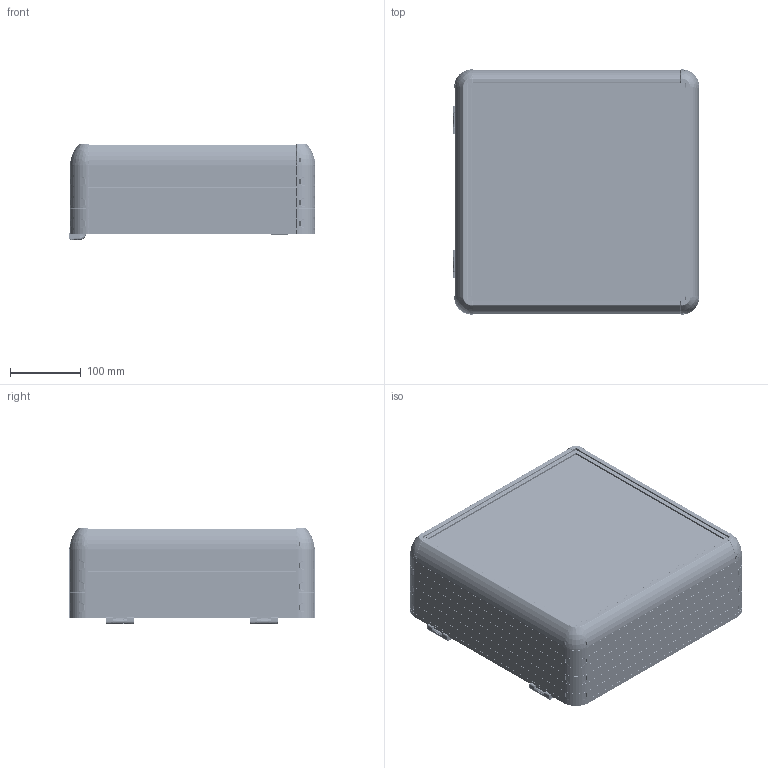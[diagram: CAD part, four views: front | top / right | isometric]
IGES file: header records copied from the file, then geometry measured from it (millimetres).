
Start section: SolidWorks IGES file using analytic representation for surfaces
Global section: file name: D:\PANO_STEP\120\120'lik data\1200-0004.IGS; native system: SolidWorks 2022; preprocessor: SolidWorks 2022; author: User; date: 220420.132504; units: millimetre
Bounding box: 349.03 x 347 x 136.15 mm (x, y, z)
Surface area: 950709.8 mm2 (no closed solid volume)
Topology: 0 solids, 0 shells, 5793 faces, 48901 edges, 48815 vertices
Faces by surface type: bspline 3709, revolution 2084
